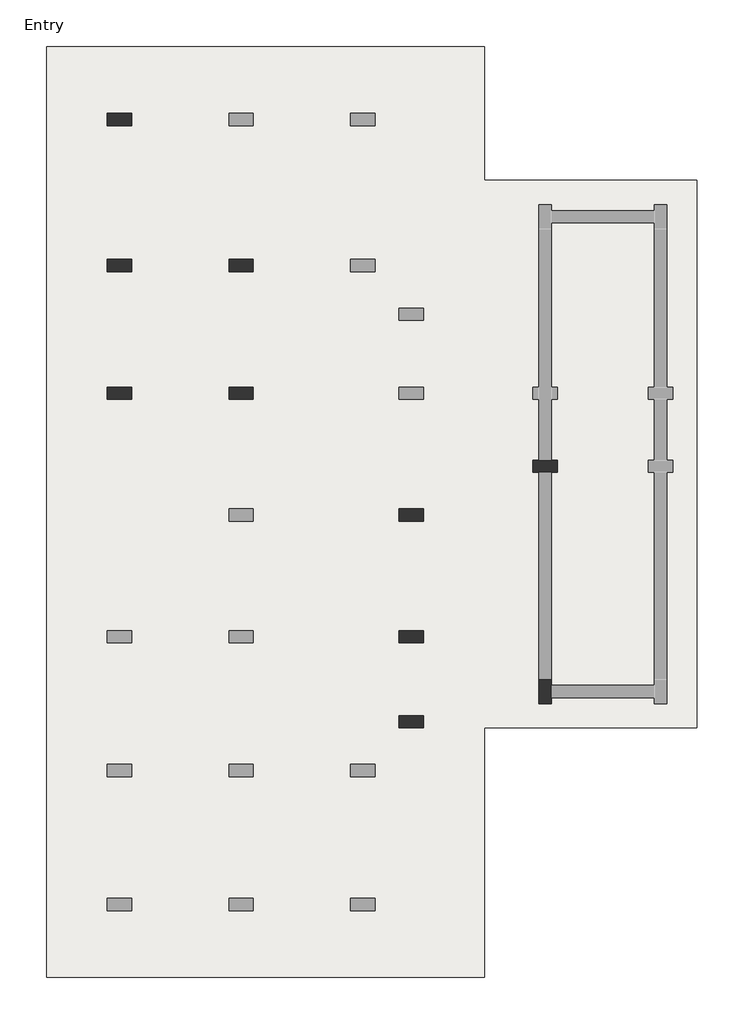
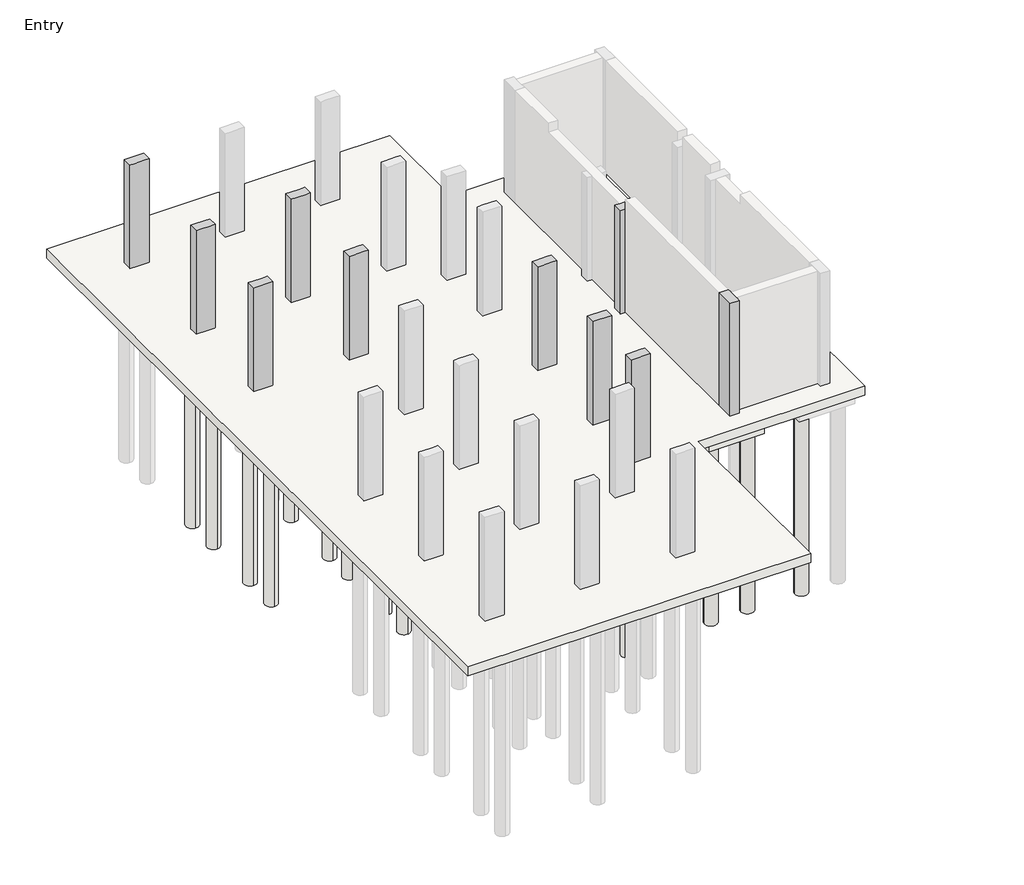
# One storey, part 2 of 3: 35 slabs, 10 columns.
"""IFC4 building model written with IfcOpenShell, lengths in millimetres."""

from ifc_helpers import new_model, si_unit, point, frame, frame_2d, origin, place, context, project, spatial, polyline, circle_curve, trimmed, segment, composite_curve, outline, extrude, faceted_brep, element, save

model = new_model("IFC4")

# Units and contexts
model_context = context("Model", 3, world=origin())
ifc_project = project(units=[si_unit("LENGTHUNIT", "METRE", prefix="MILLI")], contexts=[model_context])

# Site, building, storey
site = spatial("IfcSite", under=ifc_project)
building = spatial("IfcBuilding", under=site)
storey = spatial("IfcBuildingStorey", under=building, Name="Entry", Elevation=0.0)

# Columns
placement = place(None, origin())
element("IfcColumn", 1, ObjectType="Concrete-Rectangular-Column : 12 x 24", at=placement, inside=storey, context=model_context, shape_type="Brep", body=[
    faceted_brep([(-13471.1073204, 23769.0572372, 0.0), (-12861.5073204, 23769.0572372, 0.0), (-12861.5073204, 23464.2572372, 0.0), (-13471.1073204, 23464.2572372, 0.0), (-13471.1073204, 23769.0572372, 3505.2), (-12861.5073204, 23769.0572372, 3505.2), (-12861.5073204, 23769.0572372, 2895.6), (-12861.5073204, 23464.2572372, 3505.2), (-12861.5073204, 23464.2572372, 2895.6), (-13013.9073204, 23464.2572372, 3505.2), (-13318.7073204, 23464.2572372, 3505.2), (-13471.1073204, 23464.2572372, 3505.2)], [[[0, 1, 2, 3]], [[4, 5, 6, 1, 0]], [[5, 7, 8, 2, 1, 6]], [[7, 9, 10, 11, 3, 2, 8]], [[11, 4, 0, 3]], [[4, 11, 10, 9, 7, 5]]]),
])
element("IfcColumn", 2, ObjectType="Concrete-Rectangular-Column : 12 x 24", at=placement, inside=storey, context=model_context, shape_type="Brep", body=[
    faceted_brep([(-13471.1073204, 20111.4572372, 0.0), (-12861.5073204, 20111.4572372, 0.0), (-12861.5073204, 19806.6572372, 0.0), (-13471.1073204, 19806.6572372, 0.0), (-13471.1073204, 20111.4572372, 3505.2), (-13318.7073204, 20111.4572372, 3505.2), (-13013.9073204, 20111.4572372, 3505.2), (-12861.5073204, 20111.4572372, 3505.2), (-12861.5073204, 20111.4572372, 2895.6), (-12861.5073204, 19806.6572372, 3505.2), (-12861.5073204, 19806.6572372, 2895.6), (-13013.9073204, 19806.6572372, 3505.2), (-13318.7073204, 19806.6572372, 3505.2), (-13471.1073204, 19806.6572372, 3505.2)], [[[0, 1, 2, 3]], [[4, 5, 6, 7, 8, 1, 0]], [[7, 9, 10, 2, 1, 8]], [[9, 11, 12, 13, 3, 2, 10]], [[13, 4, 0, 3]], [[4, 13, 12, 11, 9, 7, 6, 5]]]),
])
element("IfcColumn", 3, ObjectType="Concrete-Rectangular-Column : 12 x 24", at=placement, inside=storey, context=model_context, shape_type="Brep", body=[
    faceted_brep([(-10423.1073204, 20111.4572372, 0.0), (-9813.5073204, 20111.4572372, 0.0), (-9813.5073204, 19806.6572372, 0.0), (-10423.1073204, 19806.6572372, 0.0), (-10423.1073204, 20111.4572372, 3505.2), (-10270.7073204, 20111.4572372, 3505.2), (-9965.9073204, 20111.4572372, 3505.2), (-9813.5073204, 20111.4572372, 3505.2), (-9813.5073204, 20111.4572372, 2895.6), (-10423.1073204, 20111.4572372, 2895.6), (-9813.5073204, 19806.6572372, 3505.2), (-9813.5073204, 19806.6572372, 2895.6), (-9965.9073204, 19806.6572372, 3505.2), (-10270.7073204, 19806.6572372, 3505.2), (-10423.1073204, 19806.6572372, 3505.2), (-10423.1073204, 19806.6572372, 2895.6)], [[[0, 1, 2, 3]], [[4, 5, 6, 7, 8, 1, 0, 9]], [[7, 10, 11, 2, 1, 8]], [[10, 12, 13, 14, 15, 3, 2, 11]], [[14, 4, 9, 0, 3, 15]], [[4, 14, 13, 12, 10, 7, 6, 5]]]),
])
element("IfcColumn", 4, ObjectType="Concrete-Rectangular-Column : 12 x 24", at=placement, inside=storey, context=model_context, shape_type="Brep", body=[
    faceted_brep([(-13471.1073204, 16911.0572372, 0.0), (-12861.5073204, 16911.0572372, 0.0), (-12861.5073204, 16606.2572372, 0.0), (-13471.1073204, 16606.2572372, 0.0), (-13471.1073204, 16911.0572372, 3505.2), (-13318.7073204, 16911.0572372, 3505.2), (-13013.9073204, 16911.0572372, 3505.2), (-12861.5073204, 16911.0572372, 3505.2), (-12861.5073204, 16911.0572372, 2895.6), (-12861.5073204, 16606.2572372, 3505.2), (-12861.5073204, 16606.2572372, 2895.6), (-13471.1073204, 16606.2572372, 3505.2)], [[[0, 1, 2, 3]], [[4, 5, 6, 7, 8, 1, 0]], [[7, 9, 10, 2, 1, 8]], [[9, 11, 3, 2, 10]], [[11, 4, 0, 3]], [[4, 11, 9, 7, 6, 5]]]),
])
element("IfcColumn", 5, ObjectType="Concrete-Rectangular-Column : 12 x 24", at=placement, inside=storey, context=model_context, shape_type="Brep", body=[
    faceted_brep([(-10423.1073204, 16911.0572372, 0.0), (-9813.5073204, 16911.0572372, 0.0), (-9813.5073204, 16606.2572372, 0.0), (-10423.1073204, 16606.2572372, 0.0), (-10423.1073204, 16911.0572372, 3505.2), (-10270.7073204, 16911.0572372, 3505.2), (-9965.9073204, 16911.0572372, 3505.2), (-9813.5073204, 16911.0572372, 3505.2), (-9813.5073204, 16911.0572372, 2895.6), (-10423.1073204, 16911.0572372, 2895.6), (-9813.5073204, 16606.2572372, 3505.2), (-9813.5073204, 16606.2572372, 2895.6), (-9965.9073204, 16606.2572372, 3505.2), (-10270.7073204, 16606.2572372, 3505.2), (-10423.1073204, 16606.2572372, 3505.2), (-10423.1073204, 16606.2572372, 2895.6)], [[[0, 1, 2, 3]], [[4, 5, 6, 7, 8, 1, 0, 9]], [[7, 10, 11, 2, 1, 8]], [[10, 12, 13, 14, 15, 3, 2, 11]], [[14, 4, 9, 0, 3, 15]], [[4, 14, 13, 12, 10, 7, 6, 5]]]),
])
element("IfcColumn", 6, ObjectType="Concrete-Rectangular-Column : 12 x 24", at=placement, inside=storey, context=model_context, shape_type="Brep", body=[
    faceted_brep([(-2803.8500241, 15082.2572372, 0.0), (-2651.4500241, 15082.2572372, 0.0), (-2346.6500241, 15082.2572372, 0.0), (-2194.2500241, 15082.2572372, 0.0), (-2194.2500241, 14777.4572372, 0.0), (-2346.6500241, 14777.4572372, 0.0), (-2651.4500241, 14777.4572372, 0.0), (-2803.8500241, 14777.4572372, 0.0), (-2803.8500241, 15082.2572372, 3505.2), (-2651.4500241, 15082.2572372, 3505.2), (-2346.6500241, 15082.2572372, 3505.2), (-2194.2500241, 15082.2572372, 3505.2), (-2194.2500241, 14777.4572372, 3505.2), (-2803.8500241, 14777.4572372, 3505.2)], [[[0, 1, 2, 3, 4, 5, 6, 7]], [[3, 2, 1, 0, 8, 9, 10, 11]], [[4, 3, 11, 12]], [[7, 6, 5, 4, 12, 13]], [[0, 7, 13, 8]], [[11, 10, 9, 8, 13, 12]]]),
])
element("IfcColumn", 7, ObjectType="Concrete-Rectangular-Column : 12 x 24", at=placement, inside=storey, context=model_context, shape_type="Brep", body=[
    faceted_brep([(-6156.6500241, 13863.0572372, 0.0), (-5547.0500241, 13863.0572372, 0.0), (-5547.0500241, 13558.2572372, 0.0), (-6156.6500241, 13558.2572372, 0.0), (-6156.6500241, 13863.0572372, 3505.2), (-6004.2500241, 13863.0572372, 3505.2), (-5699.4500241, 13863.0572372, 3505.2), (-5547.0500241, 13863.0572372, 3505.2), (-6156.6500241, 13863.0572372, 2895.6), (-5547.0500241, 13558.2572372, 3505.2), (-5699.4500241, 13558.2572372, 3505.2), (-6004.2500241, 13558.2572372, 3505.2), (-6156.6500241, 13558.2572372, 3505.2), (-6156.6500241, 13558.2572372, 2895.6)], [[[0, 1, 2, 3]], [[4, 5, 6, 7, 1, 0, 8]], [[7, 9, 2, 1]], [[9, 10, 11, 12, 13, 3, 2]], [[12, 4, 8, 0, 3, 13]], [[4, 12, 11, 10, 9, 7, 6, 5]]]),
])
element("IfcColumn", 8, ObjectType="Concrete-Rectangular-Column : 12 x 24", at=placement, inside=storey, context=model_context, shape_type="Brep", body=[
    faceted_brep([(-6156.6500241, 10815.0572372, 0.0), (-5547.0500241, 10815.0572372, 0.0), (-5547.0500241, 10510.2572372, 0.0), (-6156.6500241, 10510.2572372, 0.0), (-6156.6500241, 10815.0572372, 3505.2), (-6004.2500241, 10815.0572372, 3505.2), (-5699.4500241, 10815.0572372, 3505.2), (-5547.0500241, 10815.0572372, 3505.2), (-6156.6500241, 10815.0572372, 2895.6), (-5547.0500241, 10510.2572372, 3505.2), (-5699.4500241, 10510.2572372, 3505.2), (-6004.2500241, 10510.2572372, 3505.2), (-6156.6500241, 10510.2572372, 3505.2), (-6156.6500241, 10510.2572372, 2895.6)], [[[0, 1, 2, 3]], [[4, 5, 6, 7, 1, 0, 8]], [[7, 9, 2, 1]], [[9, 10, 11, 12, 13, 3, 2]], [[12, 4, 8, 0, 3, 13]], [[4, 12, 11, 10, 9, 7, 6, 5]]]),
])
element("IfcColumn", 9, ObjectType="Concrete-Rectangular-Column : 12 x 24", at=placement, inside=storey, context=model_context, shape_type="Brep", body=[
    faceted_brep([(-6156.6500241, 8681.4572372, 0.0), (-5547.0500241, 8681.4572372, 0.0), (-5547.0500241, 8376.6572372, 0.0), (-6156.6500241, 8376.6572372, 0.0), (-6156.6500241, 8681.4572372, 3505.2), (-6004.2500241, 8681.4572372, 3505.2), (-5699.4500241, 8681.4572372, 3505.2), (-5547.0500241, 8681.4572372, 3505.2), (-6156.6500241, 8681.4572372, 2895.6), (-5547.0500241, 8376.6572372, 3505.2), (-6156.6500241, 8376.6572372, 3505.2), (-6156.6500241, 8376.6572372, 2895.6)], [[[0, 1, 2, 3]], [[4, 5, 6, 7, 1, 0, 8]], [[7, 9, 2, 1]], [[9, 10, 11, 3, 2]], [[10, 4, 8, 0, 3, 11]], [[4, 10, 9, 7, 6, 5]]]),
])
element("IfcColumn", 10, ObjectType="Concrete-Rectangular-Column : 12 x 24", at=placement, inside=storey, context=model_context, shape_type="Brep", body=[
    faceted_brep([(-2346.6500241, 9595.8572372, 0.0), (-2346.6500241, 9443.4572372, 0.0), (-2346.6500241, 9138.6572372, 0.0), (-2346.6500241, 8986.2572372, 0.0), (-2651.4500241, 8986.2572372, 0.0), (-2651.4500241, 9595.8572372, 0.0), (-2346.6500241, 9595.8572372, 3810.0), (-2346.6500241, 9443.4572372, 3810.0), (-2346.6500241, 9138.6572372, 3810.0), (-2346.6500241, 8986.2572372, 3810.0), (-2651.4500241, 8986.2572372, 3810.0), (-2651.4500241, 9595.8572372, 3810.0)], [[[0, 1, 2, 3, 4, 5]], [[6, 7, 8, 9, 3, 2, 1, 0]], [[9, 10, 4, 3]], [[10, 11, 5, 4]], [[11, 6, 0, 5]], [[6, 11, 10, 9, 8, 7]]]),
])

# Slabs
element("IfcSlab", 11, ObjectType="12\" Foundation Slab", at=placement, inside=storey, context=model_context, shape_type="SweptSolid", body=[
    extrude(outline(polyline([(-4023.0500241, 25445.4572372), (-4023.0500241, 22092.6572372), (1309.1860546, 22092.6572372), (1309.1860546, 8376.6572372), (-4023.0500241, 8376.6572372), (-4023.0500241, 2128.2572372), (-14995.1073204, 2128.2572372), (-14995.1073204, 25445.4572372), (-4023.0500241, 25445.4572372)])), frame((0.0, 0.0, -304.8), z_axis=(0.0, 0.0, 1.0), x_axis=(1.0, 0.0, 0.0)), (0.0, 0.0, 1.0), 304.8),
])
element("IfcSlab", 12, ObjectType="Pile Cap-2 Pile : 31\"x61\"x35\"", at=placement, inside=storey, context=model_context, shape_type="SweptSolid", body=[
    extrude(outline(polyline([(-13572.7073204, 20848.0572372), (-12759.9073204, 20848.0572372), (-12759.9073204, 19070.0572372), (-13572.7073204, 19070.0572372), (-13572.7073204, 20848.0572372)])), frame((0.0, 0.0, -889.0), z_axis=(0.0, 0.0, 1.0), x_axis=(1.0, 0.0, 0.0)), (0.0, 0.0, 1.0), 584.2),
])
element("IfcSlab", 13, ObjectType="Pile Cap-2 Pile : 31\"x61\"x35\"", at=placement, inside=storey, context=model_context, shape_type="SweptSolid", body=[
    extrude(outline(polyline([(-13572.7073204, 17647.6572372), (-12759.9073204, 17647.6572372), (-12759.9073204, 15869.6572372), (-13572.7073204, 15869.6572372), (-13572.7073204, 17647.6572372)])), frame((0.0, 0.0, -889.0), z_axis=(0.0, 0.0, 1.0), x_axis=(1.0, 0.0, 0.0)), (0.0, 0.0, 1.0), 584.2),
])
element("IfcSlab", 14, ObjectType="Pile Cap-2 Pile : 31\"x61\"x35\"", at=placement, inside=storey, context=model_context, shape_type="SweptSolid", body=[
    extrude(outline(polyline([(-6258.2500241, 14599.6572372), (-5445.4500241, 14599.6572372), (-5445.4500241, 12821.6572372), (-6258.2500241, 12821.6572372), (-6258.2500241, 14599.6572372)])), frame((0.0, 0.0, -889.0), z_axis=(0.0, 0.0, 1.0), x_axis=(1.0, 0.0, 0.0)), (0.0, 0.0, 1.0), 584.2),
])
element("IfcSlab", 15, ObjectType="Pile Cap-2 Pile : 31\"x61\"x35\"", at=placement, inside=storey, context=model_context, shape_type="SweptSolid", body=[
    extrude(outline(polyline([(-6258.2500241, 11551.6572372), (-5445.4500241, 11551.6572372), (-5445.4500241, 9773.6572372), (-6258.2500241, 9773.6572372), (-6258.2500241, 11551.6572372)])), frame((0.0, 0.0, -889.0), z_axis=(0.0, 0.0, 1.0), x_axis=(1.0, 0.0, 0.0)), (0.0, 0.0, 1.0), 584.2),
])
element("IfcSlab", 16, ObjectType="Pile Cap-2 Pile : 31\"x61\"x35\"", at=placement, inside=storey, context=model_context, shape_type="SweptSolid", body=[
    extrude(outline(polyline([(-3388.0500241, 14523.4572372), (-3388.0500241, 15336.2572372), (-1610.0500241, 15336.2572372), (-1610.0500241, 14523.4572372), (-3388.0500241, 14523.4572372)])), frame((0.0, 0.0, -889.0), z_axis=(0.0, 0.0, 1.0), x_axis=(1.0, 0.0, 0.0)), (0.0, 0.0, 1.0), 584.2),
])
element("IfcSlab", 17, ObjectType="Pile Cap-2 Pile : 31\"x61\"x35\"", at=placement, inside=storey, context=model_context, shape_type="SweptSolid", body=[
    extrude(outline(polyline([(-1610.0500241, 9697.4572372), (-1610.0500241, 8884.6572372), (-3388.0500241, 8884.6572372), (-3388.0500241, 9697.4572372), (-1610.0500241, 9697.4572372)])), frame((0.0, 0.0, -889.0), z_axis=(0.0, 0.0, 1.0), x_axis=(1.0, 0.0, 0.0)), (0.0, 0.0, 1.0), 584.2),
])
element("IfcSlab", 18, ObjectType="Pile Cap-2 Pile : 31\"x61\"x35\"", at=placement, inside=storey, context=model_context, shape_type="SweptSolid", body=[
    extrude(outline(polyline([(-6258.2500241, 9418.0572372), (-5445.4500241, 9418.0572372), (-5445.4500241, 7640.0572372), (-6258.2500241, 7640.0572372), (-6258.2500241, 9418.0572372)])), frame((0.0, 0.0, -889.0), z_axis=(0.0, 0.0, 1.0), x_axis=(1.0, 0.0, 0.0)), (0.0, 0.0, 1.0), 584.2),
])
element("IfcSlab", 19, ObjectType="Pile Cap-4 Pile : 72\"x72\"x35\"", at=placement, inside=storey, context=model_context, shape_type="SweptSolid", body=[
    extrude(outline(polyline([(-11032.7073204, 20873.4572372), (-9203.9073204, 20873.4572372), (-9203.9073204, 19044.6572372), (-11032.7073204, 19044.6572372), (-11032.7073204, 20873.4572372)])), frame((0.0, 0.0, -889.0), z_axis=(0.0, 0.0, 1.0), x_axis=(1.0, 0.0, 0.0)), (0.0, 0.0, 1.0), 584.2),
])
element("IfcSlab", 20, ObjectType="Pile Cap-4 Pile : 72\"x72\"x35\"", at=placement, inside=storey, context=model_context, shape_type="SweptSolid", body=[
    extrude(outline(polyline([(-11032.7073204, 17673.0572372), (-9203.9073204, 17673.0572372), (-9203.9073204, 15844.2572372), (-11032.7073204, 15844.2572372), (-11032.7073204, 17673.0572372)])), frame((0.0, 0.0, -889.0), z_axis=(0.0, 0.0, 1.0), x_axis=(1.0, 0.0, 0.0)), (0.0, 0.0, 1.0), 584.2),
])
element("IfcSlab", 21, ObjectType="Pile-Steel Pipe : 16\" Diameter", at=placement, inside=storey, context=model_context, shape_type="SweptSolid", body=[
    extrude(outline(composite_curve([segment(trimmed(circle_curve(frame_2d((-10651.7073204, 19425.6572372)), 203.2), [point((-10651.7073204, 19222.4572372))], [point((-10651.7073204, 19628.8572372))], False, "CARTESIAN"), True, "CONTINUOUS"), segment(trimmed(circle_curve(frame_2d((-10651.7073204, 19425.6572372)), 203.2), [point((-10651.7073204, 19628.8572372))], [point((-10651.7073204, 19222.4572372))], False, "CARTESIAN"), True, "CONTINUOUS")], self_intersect=False)), frame((0.0, 0.0, -6985.0), z_axis=(0.0, 0.0, 1.0), x_axis=(1.0, 0.0, 0.0)), (0.0, 0.0, 1.0), 6096.0),
])
element("IfcSlab", 22, ObjectType="Pile-Steel Pipe : 16\" Diameter", at=placement, inside=storey, context=model_context, shape_type="SweptSolid", body=[
    extrude(outline(composite_curve([segment(trimmed(circle_curve(frame_2d((-9584.9073204, 19425.6572372)), 203.2), [point((-9584.9073204, 19222.4572372))], [point((-9584.9073204, 19628.8572372))], False, "CARTESIAN"), True, "CONTINUOUS"), segment(trimmed(circle_curve(frame_2d((-9584.9073204, 19425.6572372)), 203.2), [point((-9584.9073204, 19628.8572372))], [point((-9584.9073204, 19222.4572372))], False, "CARTESIAN"), True, "CONTINUOUS")], self_intersect=False)), frame((0.0, 0.0, -6985.0), z_axis=(0.0, 0.0, 1.0), x_axis=(1.0, 0.0, 0.0)), (0.0, 0.0, 1.0), 6096.0),
])
element("IfcSlab", 23, ObjectType="Pile-Steel Pipe : 16\" Diameter", at=placement, inside=storey, context=model_context, shape_type="SweptSolid", body=[
    extrude(outline(composite_curve([segment(trimmed(circle_curve(frame_2d((-10651.7073204, 16225.2572372)), 203.2), [point((-10651.7073204, 16022.0572372))], [point((-10651.7073204, 16428.4572372))], False, "CARTESIAN"), True, "CONTINUOUS"), segment(trimmed(circle_curve(frame_2d((-10651.7073204, 16225.2572372)), 203.2), [point((-10651.7073204, 16428.4572372))], [point((-10651.7073204, 16022.0572372))], False, "CARTESIAN"), True, "CONTINUOUS")], self_intersect=False)), frame((0.0, 0.0, -6985.0), z_axis=(0.0, 0.0, 1.0), x_axis=(1.0, 0.0, 0.0)), (0.0, 0.0, 1.0), 6096.0),
])
element("IfcSlab", 24, ObjectType="Pile-Steel Pipe : 16\" Diameter", at=placement, inside=storey, context=model_context, shape_type="SweptSolid", body=[
    extrude(outline(composite_curve([segment(trimmed(circle_curve(frame_2d((-9584.9073204, 16225.2572372)), 203.2), [point((-9584.9073204, 16022.0572372))], [point((-9584.9073204, 16428.4572372))], False, "CARTESIAN"), True, "CONTINUOUS"), segment(trimmed(circle_curve(frame_2d((-9584.9073204, 16225.2572372)), 203.2), [point((-9584.9073204, 16428.4572372))], [point((-9584.9073204, 16022.0572372))], False, "CARTESIAN"), True, "CONTINUOUS")], self_intersect=False)), frame((0.0, 0.0, -6985.0), z_axis=(0.0, 0.0, 1.0), x_axis=(1.0, 0.0, 0.0)), (0.0, 0.0, 1.0), 6096.0),
])
element("IfcSlab", 25, ObjectType="Pile-Steel Pipe : 16\" Diameter", at=placement, inside=storey, context=model_context, shape_type="SweptSolid", body=[
    extrude(outline(composite_curve([segment(trimmed(circle_curve(frame_2d((-9584.9073204, 17292.0572372)), 203.2), [point((-9584.9073204, 17088.8572372))], [point((-9584.9073204, 17495.2572372))], False, "CARTESIAN"), True, "CONTINUOUS"), segment(trimmed(circle_curve(frame_2d((-9584.9073204, 17292.0572372)), 203.2), [point((-9584.9073204, 17495.2572372))], [point((-9584.9073204, 17088.8572372))], False, "CARTESIAN"), True, "CONTINUOUS")], self_intersect=False)), frame((0.0, 0.0, -6985.0), z_axis=(0.0, 0.0, 1.0), x_axis=(1.0, 0.0, 0.0)), (0.0, 0.0, 1.0), 6096.0),
])
element("IfcSlab", 26, ObjectType="Pile-Steel Pipe : 16\" Diameter", at=placement, inside=storey, context=model_context, shape_type="SweptSolid", body=[
    extrude(outline(composite_curve([segment(trimmed(circle_curve(frame_2d((-10651.7073204, 17292.0572372)), 203.2), [point((-10651.7073204, 17088.8572372))], [point((-10651.7073204, 17495.2572372))], False, "CARTESIAN"), True, "CONTINUOUS"), segment(trimmed(circle_curve(frame_2d((-10651.7073204, 17292.0572372)), 203.2), [point((-10651.7073204, 17495.2572372))], [point((-10651.7073204, 17088.8572372))], False, "CARTESIAN"), True, "CONTINUOUS")], self_intersect=False)), frame((0.0, 0.0, -6985.0), z_axis=(0.0, 0.0, 1.0), x_axis=(1.0, 0.0, 0.0)), (0.0, 0.0, 1.0), 6096.0),
])
element("IfcSlab", 27, ObjectType="Pile-Steel Pipe : 16\" Diameter", at=placement, inside=storey, context=model_context, shape_type="SweptSolid", body=[
    extrude(outline(composite_curve([segment(trimmed(circle_curve(frame_2d((-10651.7073204, 13177.2572372)), 203.2), [point((-10651.7073204, 12974.0572372))], [point((-10651.7073204, 13380.4572372))], False, "CARTESIAN"), True, "CONTINUOUS"), segment(trimmed(circle_curve(frame_2d((-10651.7073204, 13177.2572372)), 203.2), [point((-10651.7073204, 13380.4572372))], [point((-10651.7073204, 12974.0572372))], False, "CARTESIAN"), True, "CONTINUOUS")], self_intersect=False)), frame((0.0, 0.0, -6985.0), z_axis=(0.0, 0.0, 1.0), x_axis=(1.0, 0.0, 0.0)), (0.0, 0.0, 1.0), 6096.0),
])
element("IfcSlab", 28, ObjectType="Pile-Steel Pipe : 16\" Diameter", at=placement, inside=storey, context=model_context, shape_type="SweptSolid", body=[
    extrude(outline(composite_curve([segment(trimmed(circle_curve(frame_2d((-9584.9073204, 13177.2572372)), 203.2), [point((-9584.9073204, 12974.0572372))], [point((-9584.9073204, 13380.4572372))], False, "CARTESIAN"), True, "CONTINUOUS"), segment(trimmed(circle_curve(frame_2d((-9584.9073204, 13177.2572372)), 203.2), [point((-9584.9073204, 13380.4572372))], [point((-9584.9073204, 12974.0572372))], False, "CARTESIAN"), True, "CONTINUOUS")], self_intersect=False)), frame((0.0, 0.0, -6985.0), z_axis=(0.0, 0.0, 1.0), x_axis=(1.0, 0.0, 0.0)), (0.0, 0.0, 1.0), 6096.0),
])
element("IfcSlab", 29, ObjectType="Pile-Steel Pipe : 16\" Diameter", at=placement, inside=storey, context=model_context, shape_type="SweptSolid", body=[
    extrude(outline(composite_curve([segment(trimmed(circle_curve(frame_2d((-9584.9073204, 14244.0572372)), 203.2), [point((-9584.9073204, 14040.8572372))], [point((-9584.9073204, 14447.2572372))], False, "CARTESIAN"), True, "CONTINUOUS"), segment(trimmed(circle_curve(frame_2d((-9584.9073204, 14244.0572372)), 203.2), [point((-9584.9073204, 14447.2572372))], [point((-9584.9073204, 14040.8572372))], False, "CARTESIAN"), True, "CONTINUOUS")], self_intersect=False)), frame((0.0, 0.0, -6985.0), z_axis=(0.0, 0.0, 1.0), x_axis=(1.0, 0.0, 0.0)), (0.0, 0.0, 1.0), 6096.0),
])
element("IfcSlab", 30, ObjectType="Pile-Steel Pipe : 16\" Diameter", at=placement, inside=storey, context=model_context, shape_type="SweptSolid", body=[
    extrude(outline(composite_curve([segment(trimmed(circle_curve(frame_2d((-10651.7073204, 14244.0572372)), 203.2), [point((-10651.7073204, 14040.8572372))], [point((-10651.7073204, 14447.2572372))], False, "CARTESIAN"), True, "CONTINUOUS"), segment(trimmed(circle_curve(frame_2d((-10651.7073204, 14244.0572372)), 203.2), [point((-10651.7073204, 14447.2572372))], [point((-10651.7073204, 14040.8572372))], False, "CARTESIAN"), True, "CONTINUOUS")], self_intersect=False)), frame((0.0, 0.0, -6985.0), z_axis=(0.0, 0.0, 1.0), x_axis=(1.0, 0.0, 0.0)), (0.0, 0.0, 1.0), 6096.0),
])
element("IfcSlab", 31, ObjectType="Pile-Steel Pipe : 16\" Diameter", at=placement, inside=storey, context=model_context, shape_type="SweptSolid", body=[
    extrude(outline(composite_curve([segment(trimmed(circle_curve(frame_2d((-13166.3073204, 19374.8572372)), 203.2), [point((-13166.3073204, 19171.6572372))], [point((-13166.3073204, 19578.0572372))], False, "CARTESIAN"), True, "CONTINUOUS"), segment(trimmed(circle_curve(frame_2d((-13166.3073204, 19374.8572372)), 203.2), [point((-13166.3073204, 19578.0572372))], [point((-13166.3073204, 19171.6572372))], False, "CARTESIAN"), True, "CONTINUOUS")], self_intersect=False)), frame((0.0, 0.0, -6985.0), z_axis=(0.0, 0.0, 1.0), x_axis=(1.0, 0.0, 0.0)), (0.0, 0.0, 1.0), 6096.0),
])
element("IfcSlab", 32, ObjectType="Pile-Steel Pipe : 16\" Diameter", at=placement, inside=storey, context=model_context, shape_type="SweptSolid", body=[
    extrude(outline(composite_curve([segment(trimmed(circle_curve(frame_2d((-13166.3073204, 20543.2572372)), 203.2), [point((-13166.3073204, 20340.0572372))], [point((-13166.3073204, 20746.4572372))], False, "CARTESIAN"), True, "CONTINUOUS"), segment(trimmed(circle_curve(frame_2d((-13166.3073204, 20543.2572372)), 203.2), [point((-13166.3073204, 20746.4572372))], [point((-13166.3073204, 20340.0572372))], False, "CARTESIAN"), True, "CONTINUOUS")], self_intersect=False)), frame((0.0, 0.0, -6985.0), z_axis=(0.0, 0.0, 1.0), x_axis=(1.0, 0.0, 0.0)), (0.0, 0.0, 1.0), 6096.0),
])
element("IfcSlab", 33, ObjectType="Pile-Steel Pipe : 16\" Diameter", at=placement, inside=storey, context=model_context, shape_type="SweptSolid", body=[
    extrude(outline(composite_curve([segment(trimmed(circle_curve(frame_2d((-13166.3073204, 16174.4572372)), 203.2), [point((-13166.3073204, 15971.2572372))], [point((-13166.3073204, 16377.6572372))], False, "CARTESIAN"), True, "CONTINUOUS"), segment(trimmed(circle_curve(frame_2d((-13166.3073204, 16174.4572372)), 203.2), [point((-13166.3073204, 16377.6572372))], [point((-13166.3073204, 15971.2572372))], False, "CARTESIAN"), True, "CONTINUOUS")], self_intersect=False)), frame((0.0, 0.0, -6985.0), z_axis=(0.0, 0.0, 1.0), x_axis=(1.0, 0.0, 0.0)), (0.0, 0.0, 1.0), 6096.0),
])
element("IfcSlab", 34, ObjectType="Pile-Steel Pipe : 16\" Diameter", at=placement, inside=storey, context=model_context, shape_type="SweptSolid", body=[
    extrude(outline(composite_curve([segment(trimmed(circle_curve(frame_2d((-13166.3073204, 17342.8572372)), 203.2), [point((-13166.3073204, 17139.6572372))], [point((-13166.3073204, 17546.0572372))], False, "CARTESIAN"), True, "CONTINUOUS"), segment(trimmed(circle_curve(frame_2d((-13166.3073204, 17342.8572372)), 203.2), [point((-13166.3073204, 17546.0572372))], [point((-13166.3073204, 17139.6572372))], False, "CARTESIAN"), True, "CONTINUOUS")], self_intersect=False)), frame((0.0, 0.0, -6985.0), z_axis=(0.0, 0.0, 1.0), x_axis=(1.0, 0.0, 0.0)), (0.0, 0.0, 1.0), 6096.0),
])
element("IfcSlab", 35, ObjectType="Pile-Steel Pipe : 16\" Diameter", at=placement, inside=storey, context=model_context, shape_type="SweptSolid", body=[
    extrude(outline(composite_curve([segment(trimmed(circle_curve(frame_2d((-5851.8500241, 13126.4572372)), 203.2), [point((-5851.8500241, 12923.2572372))], [point((-5851.8500241, 13329.6572372))], False, "CARTESIAN"), True, "CONTINUOUS"), segment(trimmed(circle_curve(frame_2d((-5851.8500241, 13126.4572372)), 203.2), [point((-5851.8500241, 13329.6572372))], [point((-5851.8500241, 12923.2572372))], False, "CARTESIAN"), True, "CONTINUOUS")], self_intersect=False)), frame((0.0, 0.0, -6985.0), z_axis=(0.0, 0.0, 1.0), x_axis=(1.0, 0.0, 0.0)), (0.0, 0.0, 1.0), 6096.0),
])
element("IfcSlab", 36, ObjectType="Pile-Steel Pipe : 16\" Diameter", at=placement, inside=storey, context=model_context, shape_type="SweptSolid", body=[
    extrude(outline(composite_curve([segment(trimmed(circle_curve(frame_2d((-5851.8500241, 14294.8572372)), 203.2), [point((-5851.8500241, 14091.6572372))], [point((-5851.8500241, 14498.0572372))], False, "CARTESIAN"), True, "CONTINUOUS"), segment(trimmed(circle_curve(frame_2d((-5851.8500241, 14294.8572372)), 203.2), [point((-5851.8500241, 14498.0572372))], [point((-5851.8500241, 14091.6572372))], False, "CARTESIAN"), True, "CONTINUOUS")], self_intersect=False)), frame((0.0, 0.0, -6985.0), z_axis=(0.0, 0.0, 1.0), x_axis=(1.0, 0.0, 0.0)), (0.0, 0.0, 1.0), 6096.0),
])
element("IfcSlab", 37, ObjectType="Pile-Steel Pipe : 16\" Diameter", at=placement, inside=storey, context=model_context, shape_type="SweptSolid", body=[
    extrude(outline(composite_curve([segment(trimmed(circle_curve(frame_2d((-5851.8500241, 10078.4572372)), 203.2), [point((-5851.8500241, 9875.2572372))], [point((-5851.8500241, 10281.6572372))], False, "CARTESIAN"), True, "CONTINUOUS"), segment(trimmed(circle_curve(frame_2d((-5851.8500241, 10078.4572372)), 203.2), [point((-5851.8500241, 10281.6572372))], [point((-5851.8500241, 9875.2572372))], False, "CARTESIAN"), True, "CONTINUOUS")], self_intersect=False)), frame((0.0, 0.0, -6985.0), z_axis=(0.0, 0.0, 1.0), x_axis=(1.0, 0.0, 0.0)), (0.0, 0.0, 1.0), 6096.0),
])
element("IfcSlab", 38, ObjectType="Pile-Steel Pipe : 16\" Diameter", at=placement, inside=storey, context=model_context, shape_type="SweptSolid", body=[
    extrude(outline(composite_curve([segment(trimmed(circle_curve(frame_2d((-5851.8500241, 11246.8572372)), 203.2), [point((-5851.8500241, 11043.6572372))], [point((-5851.8500241, 11450.0572372))], False, "CARTESIAN"), True, "CONTINUOUS"), segment(trimmed(circle_curve(frame_2d((-5851.8500241, 11246.8572372)), 203.2), [point((-5851.8500241, 11450.0572372))], [point((-5851.8500241, 11043.6572372))], False, "CARTESIAN"), True, "CONTINUOUS")], self_intersect=False)), frame((0.0, 0.0, -6985.0), z_axis=(0.0, 0.0, 1.0), x_axis=(1.0, 0.0, 0.0)), (0.0, 0.0, 1.0), 6096.0),
])
element("IfcSlab", 39, ObjectType="Pile-Steel Pipe : 16\" Diameter", at=placement, inside=storey, context=model_context, shape_type="SweptSolid", body=[
    extrude(outline(composite_curve([segment(trimmed(circle_curve(frame_2d((-189.4139454, 14929.8572372)), 203.2), [point((13.7860546, 14929.8572372))], [point((-392.6139454, 14929.8572372))], False, "CARTESIAN"), True, "CONTINUOUS"), segment(trimmed(circle_curve(frame_2d((-189.4139454, 14929.8572372)), 203.2), [point((-392.6139454, 14929.8572372))], [point((13.7860546, 14929.8572372))], False, "CARTESIAN"), True, "CONTINUOUS")], self_intersect=False)), frame((0.0, 0.0, -6985.0), z_axis=(0.0, 0.0, 1.0), x_axis=(1.0, 0.0, 0.0)), (0.0, 0.0, 1.0), 6096.0),
])
element("IfcSlab", 40, ObjectType="Pile-Steel Pipe : 16\" Diameter", at=placement, inside=storey, context=model_context, shape_type="SweptSolid", body=[
    extrude(outline(composite_curve([segment(trimmed(circle_curve(frame_2d((-1914.8500241, 14929.8572372)), 203.2), [point((-1711.6500241, 14929.8572372))], [point((-2118.0500241, 14929.8572372))], False, "CARTESIAN"), True, "CONTINUOUS"), segment(trimmed(circle_curve(frame_2d((-1914.8500241, 14929.8572372)), 203.2), [point((-2118.0500241, 14929.8572372))], [point((-1711.6500241, 14929.8572372))], False, "CARTESIAN"), True, "CONTINUOUS")], self_intersect=False)), frame((0.0, 0.0, -6985.0), z_axis=(0.0, 0.0, 1.0), x_axis=(1.0, 0.0, 0.0)), (0.0, 0.0, 1.0), 6096.0),
])
element("IfcSlab", 41, ObjectType="Pile-Steel Pipe : 16\" Diameter", at=placement, inside=storey, context=model_context, shape_type="SweptSolid", body=[
    extrude(outline(composite_curve([segment(trimmed(circle_curve(frame_2d((-3083.2500241, 14929.8572372)), 203.2), [point((-2880.0500241, 14929.8572372))], [point((-3286.4500241, 14929.8572372))], False, "CARTESIAN"), True, "CONTINUOUS"), segment(trimmed(circle_curve(frame_2d((-3083.2500241, 14929.8572372)), 203.2), [point((-3286.4500241, 14929.8572372))], [point((-2880.0500241, 14929.8572372))], False, "CARTESIAN"), True, "CONTINUOUS")], self_intersect=False)), frame((0.0, 0.0, -6985.0), z_axis=(0.0, 0.0, 1.0), x_axis=(1.0, 0.0, 0.0)), (0.0, 0.0, 1.0), 6096.0),
])
element("IfcSlab", 42, ObjectType="Pile-Steel Pipe : 16\" Diameter", at=placement, inside=storey, context=model_context, shape_type="SweptSolid", body=[
    extrude(outline(composite_curve([segment(trimmed(circle_curve(frame_2d((-3083.2500241, 9291.0572372)), 203.2), [point((-3286.4500241, 9291.0572372))], [point((-2880.0500241, 9291.0572372))], False, "CARTESIAN"), True, "CONTINUOUS"), segment(trimmed(circle_curve(frame_2d((-3083.2500241, 9291.0572372)), 203.2), [point((-2880.0500241, 9291.0572372))], [point((-3286.4500241, 9291.0572372))], False, "CARTESIAN"), True, "CONTINUOUS")], self_intersect=False)), frame((0.0, 0.0, -6985.0), z_axis=(0.0, 0.0, 1.0), x_axis=(1.0, 0.0, 0.0)), (0.0, 0.0, 1.0), 6096.0),
])
element("IfcSlab", 43, ObjectType="Pile-Steel Pipe : 16\" Diameter", at=placement, inside=storey, context=model_context, shape_type="SweptSolid", body=[
    extrude(outline(composite_curve([segment(trimmed(circle_curve(frame_2d((-1914.8500241, 9291.0572372)), 203.2), [point((-2118.0500241, 9291.0572372))], [point((-1711.6500241, 9291.0572372))], False, "CARTESIAN"), True, "CONTINUOUS"), segment(trimmed(circle_curve(frame_2d((-1914.8500241, 9291.0572372)), 203.2), [point((-1711.6500241, 9291.0572372))], [point((-2118.0500241, 9291.0572372))], False, "CARTESIAN"), True, "CONTINUOUS")], self_intersect=False)), frame((0.0, 0.0, -6985.0), z_axis=(0.0, 0.0, 1.0), x_axis=(1.0, 0.0, 0.0)), (0.0, 0.0, 1.0), 6096.0),
])
element("IfcSlab", 44, ObjectType="Pile-Steel Pipe : 16\" Diameter", at=placement, inside=storey, context=model_context, shape_type="SweptSolid", body=[
    extrude(outline(composite_curve([segment(trimmed(circle_curve(frame_2d((-189.4139454, 9291.0572372)), 203.2), [point((-392.6139454, 9291.0572372))], [point((13.7860546, 9291.0572372))], False, "CARTESIAN"), True, "CONTINUOUS"), segment(trimmed(circle_curve(frame_2d((-189.4139454, 9291.0572372)), 203.2), [point((13.7860546, 9291.0572372))], [point((-392.6139454, 9291.0572372))], False, "CARTESIAN"), True, "CONTINUOUS")], self_intersect=False)), frame((0.0, 0.0, -6985.0), z_axis=(0.0, 0.0, 1.0), x_axis=(1.0, 0.0, 0.0)), (0.0, 0.0, 1.0), 6096.0),
])
element("IfcSlab", 45, ObjectType="Pile-Steel Pipe : 16\" Diameter", at=placement, inside=storey, context=model_context, shape_type="SweptSolid", body=[
    extrude(outline(composite_curve([segment(trimmed(circle_curve(frame_2d((-5851.8500241, 9113.2572372)), 203.2), [point((-5851.8500241, 8910.0572372))], [point((-5851.8500241, 9316.4572372))], False, "CARTESIAN"), True, "CONTINUOUS"), segment(trimmed(circle_curve(frame_2d((-5851.8500241, 9113.2572372)), 203.2), [point((-5851.8500241, 9316.4572372))], [point((-5851.8500241, 8910.0572372))], False, "CARTESIAN"), True, "CONTINUOUS")], self_intersect=False)), frame((0.0, 0.0, -6985.0), z_axis=(0.0, 0.0, 1.0), x_axis=(1.0, 0.0, 0.0)), (0.0, 0.0, 1.0), 6096.0),
])

save(model, "model.ifc")
